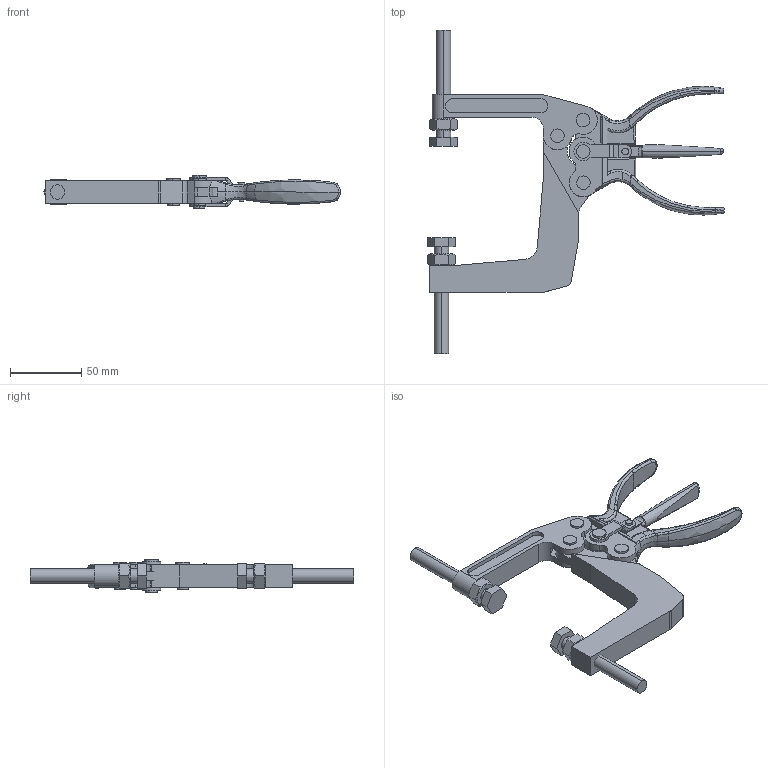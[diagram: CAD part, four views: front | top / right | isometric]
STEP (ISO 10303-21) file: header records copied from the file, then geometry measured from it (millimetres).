
FILE_DESCRIPTION (( 'STEP AP203' ), '1' );
FILE_NAME ('KFA-100-2.STEP', '2014-09-04T18:24:31', ( 'Ricardo' ), ( '' ), 'SwSTEP 2.0', 'SolidWorks 2013', '' );
FILE_SCHEMA (( 'CONFIG_CONTROL_DESIGN' ));
Length unit declared in the file: millimetre
Products named in the file (12): 06.50013; 06.50047; 01.30008; 12.50004; 01.30009; 11.50003; 03.30003; KFA-100-2; 03.10012; 18.30001; 18.10013; 06.50039
Assembly tree (16 placements, depth 2):
  KFA-100-2
    01.30008
    01.30009
    03.30003
    03.10012
    18.30001
    18.10013  x2
    06.50039  x3
    06.50013
    06.50047
    12.50004  x2
    11.50003  x2
Bounding box: 208.68 x 227 x 23.5 mm (x, y, z)
Volume: 145377.6 mm3; surface area: 58330.8 mm2
Topology: 17 solids, 17 shells, 441 faces, 1080 edges, 674 vertices
Faces by surface type: cylinder 183, plane 149, bspline 79, cone 26, sphere 4
Entity records: 16826 total; most frequent: CARTESIAN_POINT 7258, ORIENTED_EDGE 1796, DIRECTION 1579, EDGE_CURVE 898, AXIS2_PLACEMENT_3D 611, VERTEX_POINT 568, EDGE_LOOP 406, FACE_OUTER_BOUND 362
